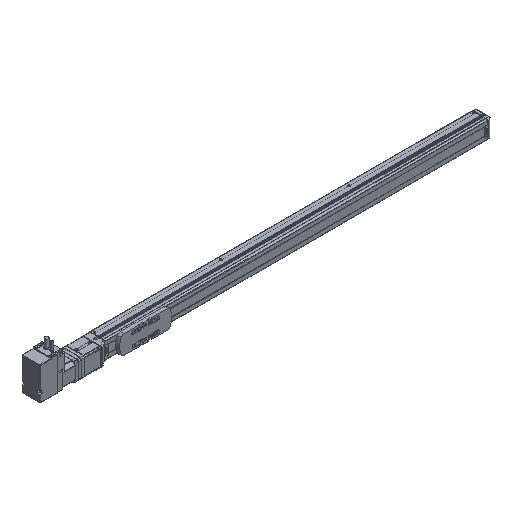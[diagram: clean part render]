
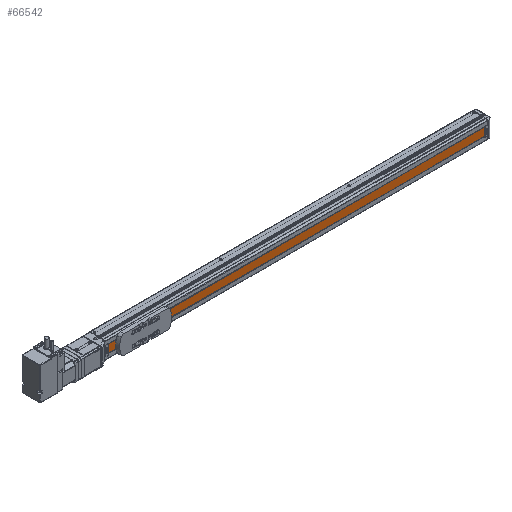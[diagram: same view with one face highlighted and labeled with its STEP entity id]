
A CAD part, isometric view. The second image highlights one B-rep face of the part: STEP entity #66542.
In plain terms, the highlighted planar face has unit normal (0, -1, 0) as drawn and (0, 1, 0) by its records, which use the part's own axes.
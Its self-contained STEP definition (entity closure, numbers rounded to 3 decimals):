
#66250 = PLANE('',#66251);
#66251 = AXIS2_PLACEMENT_3D('',#66252,#66253,#66254);
#66252 = CARTESIAN_POINT('',(-16.5,13.8,-10.));
#66253 = DIRECTION('',(1.,0.,0.));
#66254 = DIRECTION('',(0.,0.,-1.));
#66306 = PLANE('',#66307);
#66307 = AXIS2_PLACEMENT_3D('',#66308,#66309,#66310);
#66308 = CARTESIAN_POINT('',(-869.5,13.8,10.));
#66309 = DIRECTION('',(-1.,0.,0.));
#66310 = DIRECTION('',(0.,0.,1.));
#66542 = ADVANCED_FACE('',(#66543),#66557,.T.);
#66543 = FACE_BOUND('',#66544,.T.);
#66544 = EDGE_LOOP('',(#66545,#66580,#66603,#66631));
#66545 = ORIENTED_EDGE('',*,*,#66546,.T.);
#66546 = EDGE_CURVE('',#66547,#66549,#66551,.T.);
#66547 = VERTEX_POINT('',#66548);
#66548 = CARTESIAN_POINT('',(-869.5,12.3,9.2));
#66549 = VERTEX_POINT('',#66550);
#66550 = CARTESIAN_POINT('',(-16.5,12.3,9.2));
#66551 = SURFACE_CURVE('',#66552,(#66556,#66568),.PCURVE_S1.);
#66552 = LINE('',#66553,#66554);
#66553 = CARTESIAN_POINT('',(-876.5,12.3,9.2));
#66554 = VECTOR('',#66555,1.);
#66555 = DIRECTION('',(1.,0.,0.));
#66556 = PCURVE('',#66557,#66562);
#66557 = PLANE('',#66558);
#66558 = AXIS2_PLACEMENT_3D('',#66559,#66560,#66561);
#66559 = CARTESIAN_POINT('',(-876.5,12.3,-18.034));
#66560 = DIRECTION('',(0.,1.,0.));
#66561 = DIRECTION('',(0.,-0.,1.));
#66562 = DEFINITIONAL_REPRESENTATION('',(#66563),#66567);
#66563 = LINE('',#66564,#66565);
#66564 = CARTESIAN_POINT('',(27.234,0.));
#66565 = VECTOR('',#66566,1.);
#66566 = DIRECTION('',(0.,1.));
#66567 = ( GEOMETRIC_REPRESENTATION_CONTEXT(2) 
PARAMETRIC_REPRESENTATION_CONTEXT() REPRESENTATION_CONTEXT('2D SPACE',''
  ) );
#66568 = PCURVE('',#66569,#66574);
#66569 = PLANE('',#66570);
#66570 = AXIS2_PLACEMENT_3D('',#66571,#66572,#66573);
#66571 = CARTESIAN_POINT('',(-876.5,11.1,9.2));
#66572 = DIRECTION('',(0.,0.,-1.));
#66573 = DIRECTION('',(0.,1.,0.));
#66574 = DEFINITIONAL_REPRESENTATION('',(#66575),#66579);
#66575 = LINE('',#66576,#66577);
#66576 = CARTESIAN_POINT('',(1.2,0.));
#66577 = VECTOR('',#66578,1.);
#66578 = DIRECTION('',(0.,1.));
#66579 = ( GEOMETRIC_REPRESENTATION_CONTEXT(2) 
PARAMETRIC_REPRESENTATION_CONTEXT() REPRESENTATION_CONTEXT('2D SPACE',''
  ) );
#66580 = ORIENTED_EDGE('',*,*,#66581,.T.);
#66581 = EDGE_CURVE('',#66549,#66582,#66584,.T.);
#66582 = VERTEX_POINT('',#66583);
#66583 = CARTESIAN_POINT('',(-16.5,12.3,-9.2));
#66584 = SURFACE_CURVE('',#66585,(#66589,#66596),.PCURVE_S1.);
#66585 = LINE('',#66586,#66587);
#66586 = CARTESIAN_POINT('',(-16.5,12.3,-18.034));
#66587 = VECTOR('',#66588,1.);
#66588 = DIRECTION('',(0.,0.,-1.));
#66589 = PCURVE('',#66557,#66590);
#66590 = DEFINITIONAL_REPRESENTATION('',(#66591),#66595);
#66591 = LINE('',#66592,#66593);
#66592 = CARTESIAN_POINT('',(0.,860.));
#66593 = VECTOR('',#66594,1.);
#66594 = DIRECTION('',(-1.,0.));
#66595 = ( GEOMETRIC_REPRESENTATION_CONTEXT(2) 
PARAMETRIC_REPRESENTATION_CONTEXT() REPRESENTATION_CONTEXT('2D SPACE',''
  ) );
#66596 = PCURVE('',#66250,#66597);
#66597 = DEFINITIONAL_REPRESENTATION('',(#66598),#66602);
#66598 = LINE('',#66599,#66600);
#66599 = CARTESIAN_POINT('',(8.034,-1.5));
#66600 = VECTOR('',#66601,1.);
#66601 = DIRECTION('',(1.,0.));
#66602 = ( GEOMETRIC_REPRESENTATION_CONTEXT(2) 
PARAMETRIC_REPRESENTATION_CONTEXT() REPRESENTATION_CONTEXT('2D SPACE',''
  ) );
#66603 = ORIENTED_EDGE('',*,*,#66604,.F.);
#66604 = EDGE_CURVE('',#66605,#66582,#66607,.T.);
#66605 = VERTEX_POINT('',#66606);
#66606 = CARTESIAN_POINT('',(-869.5,12.3,-9.2));
#66607 = SURFACE_CURVE('',#66608,(#66612,#66619),.PCURVE_S1.);
#66608 = LINE('',#66609,#66610);
#66609 = CARTESIAN_POINT('',(-876.5,12.3,-9.2));
#66610 = VECTOR('',#66611,1.);
#66611 = DIRECTION('',(1.,0.,0.));
#66612 = PCURVE('',#66557,#66613);
#66613 = DEFINITIONAL_REPRESENTATION('',(#66614),#66618);
#66614 = LINE('',#66615,#66616);
#66615 = CARTESIAN_POINT('',(8.834,0.));
#66616 = VECTOR('',#66617,1.);
#66617 = DIRECTION('',(0.,1.));
#66618 = ( GEOMETRIC_REPRESENTATION_CONTEXT(2) 
PARAMETRIC_REPRESENTATION_CONTEXT() REPRESENTATION_CONTEXT('2D SPACE',''
  ) );
#66619 = PCURVE('',#66620,#66625);
#66620 = PLANE('',#66621);
#66621 = AXIS2_PLACEMENT_3D('',#66622,#66623,#66624);
#66622 = CARTESIAN_POINT('',(-876.5,12.3,-9.2));
#66623 = DIRECTION('',(0.,0.,1.));
#66624 = DIRECTION('',(0.,-1.,0.));
#66625 = DEFINITIONAL_REPRESENTATION('',(#66626),#66630);
#66626 = LINE('',#66627,#66628);
#66627 = CARTESIAN_POINT('',(0.,0.));
#66628 = VECTOR('',#66629,1.);
#66629 = DIRECTION('',(0.,1.));
#66630 = ( GEOMETRIC_REPRESENTATION_CONTEXT(2) 
PARAMETRIC_REPRESENTATION_CONTEXT() REPRESENTATION_CONTEXT('2D SPACE',''
  ) );
#66631 = ORIENTED_EDGE('',*,*,#66632,.T.);
#66632 = EDGE_CURVE('',#66605,#66547,#66633,.T.);
#66633 = SURFACE_CURVE('',#66634,(#66638,#66645),.PCURVE_S1.);
#66634 = LINE('',#66635,#66636);
#66635 = CARTESIAN_POINT('',(-869.5,12.3,-18.034));
#66636 = VECTOR('',#66637,1.);
#66637 = DIRECTION('',(0.,0.,1.));
#66638 = PCURVE('',#66557,#66639);
#66639 = DEFINITIONAL_REPRESENTATION('',(#66640),#66644);
#66640 = LINE('',#66641,#66642);
#66641 = CARTESIAN_POINT('',(0.,7.));
#66642 = VECTOR('',#66643,1.);
#66643 = DIRECTION('',(1.,0.));
#66644 = ( GEOMETRIC_REPRESENTATION_CONTEXT(2) 
PARAMETRIC_REPRESENTATION_CONTEXT() REPRESENTATION_CONTEXT('2D SPACE',''
  ) );
#66645 = PCURVE('',#66306,#66646);
#66646 = DEFINITIONAL_REPRESENTATION('',(#66647),#66651);
#66647 = LINE('',#66648,#66649);
#66648 = CARTESIAN_POINT('',(-28.034,-1.5));
#66649 = VECTOR('',#66650,1.);
#66650 = DIRECTION('',(1.,0.));
#66651 = ( GEOMETRIC_REPRESENTATION_CONTEXT(2) 
PARAMETRIC_REPRESENTATION_CONTEXT() REPRESENTATION_CONTEXT('2D SPACE',''
  ) );
